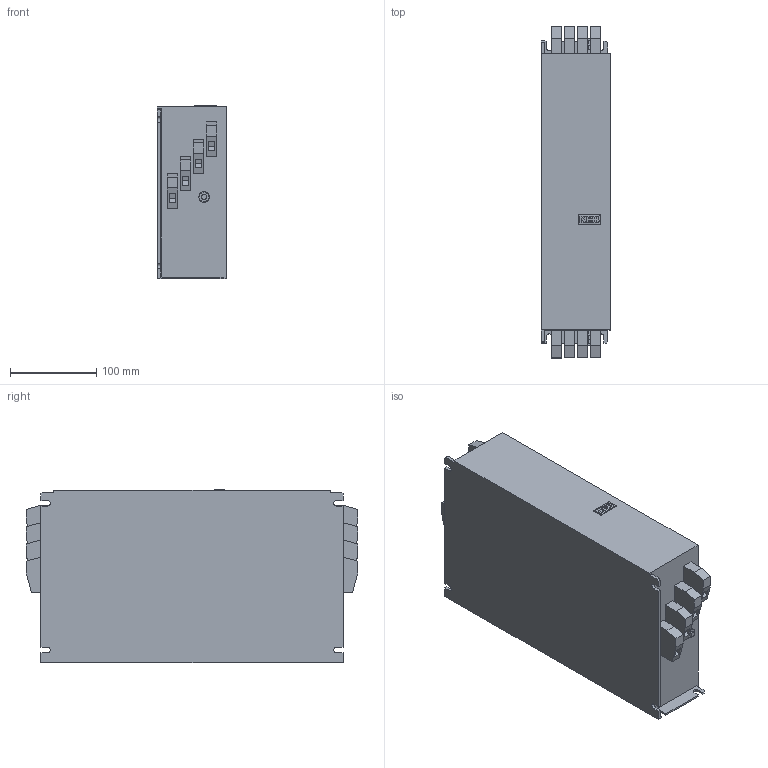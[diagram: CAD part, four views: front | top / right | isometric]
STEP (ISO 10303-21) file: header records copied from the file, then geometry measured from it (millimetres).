
FILE_DESCRIPTION (( 'STEP AP214' ), '1' );
FILE_NAME ('00E6X04-0018.STEP', '2023-07-10T12:24:11', ( '' ), ( '' ), 'SwSTEP 2.0', 'SolidWorks 2022', '' );
FILE_SCHEMA (( 'AUTOMOTIVE_DESIGN' ));
Length unit declared in the file: millimetre
Products named in the file (1): 00E6X04-0018
Bounding box: 80 x 384.6 x 201.52 mm (x, y, z)
Volume: 5257933.9 mm3; surface area: 253936.2 mm2
Topology: 1 solids, 1 shells, 244 faces, 631 edges, 418 vertices
Faces by surface type: plane 196, cylinder 35, bspline 13
Entity records: 8262 total; most frequent: CARTESIAN_POINT 2187, ORIENTED_EDGE 1262, DIRECTION 1065, EDGE_CURVE 631, LINE 481, VECTOR 481, VERTEX_POINT 418, AXIS2_PLACEMENT_3D 292
